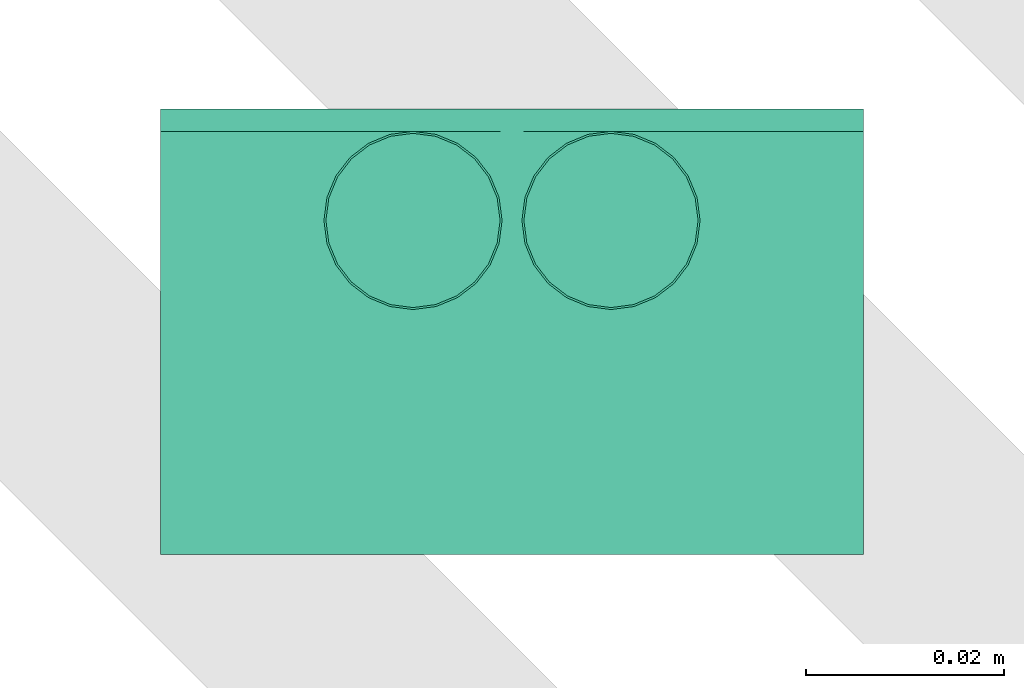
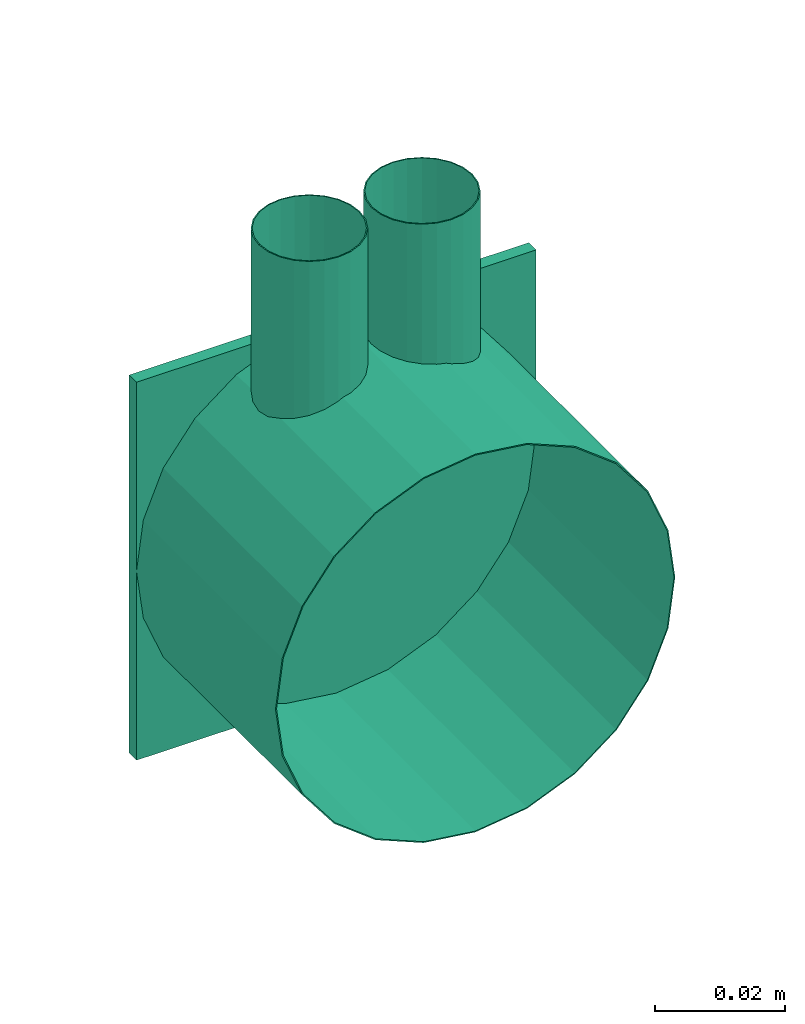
# One storey, part 51 of 51: 1 flow fitting.
"""IFC2X3 building model written with IfcOpenShell, lengths in millimetres."""

from ifc_helpers import new_model, entity, si_unit, converted_unit, derived_unit, direction, frame, origin_with_axes, place, context, subcontext, project, spatial, open_shell, surface_model, source, transform, mapped, type_object, element, save


model = new_model("IFC2X3")

# Units and contexts
model_context = context("Model", 3, precision=0.01, world=frame((0.0, 4.29681676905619e-09, 0.0)), true_north=direction((4.01073788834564e-13, 1.0)))
plan_context = context("Plan", 3, precision=0.01, world=frame((0.0, 4.29681676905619e-09, 0.0)), true_north=direction((4.01073788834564e-13, 1.0)))
body_context = subcontext(model_context, "Body", "Model", "MODEL_VIEW")
ifc_project = project(units=[converted_unit("PLANEANGLEUNIT", "DEGREE", entity("IfcPositiveLengthMeasure", 0.0174532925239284), si_unit("PLANEANGLEUNIT", "RADIAN"), dimensions=[0, 0, 0, 0, 0, 0, 0]), si_unit("AREAUNIT", "SQUARE_METRE"), si_unit("LENGTHUNIT", "METRE", prefix="MILLI"), si_unit("MASSUNIT", "GRAM", prefix="KILO"), si_unit("POWERUNIT", "WATT"), si_unit("PRESSUREUNIT", "PASCAL"), si_unit("FORCEUNIT", "NEWTON", prefix="KILO"), si_unit("ELECTRICVOLTAGEUNIT", "VOLT"), si_unit("ELECTRICCURRENTUNIT", "AMPERE"), si_unit("THERMODYNAMICTEMPERATUREUNIT", "DEGREE_CELSIUS"), si_unit("TIMEUNIT", "SECOND"), si_unit("VOLUMEUNIT", "CUBIC_METRE"), derived_unit("LINEARVELOCITYUNIT", [(si_unit("LENGTHUNIT", "METRE"), 1), (si_unit("TIMEUNIT", "SECOND"), -1)]), derived_unit("VOLUMETRICFLOWRATEUNIT", [(si_unit("VOLUMEUNIT", "CUBIC_METRE"), 1), (si_unit("TIMEUNIT", "SECOND"), -1)]), derived_unit("THERMALTRANSMITTANCEUNIT", [(si_unit("POWERUNIT", "WATT"), 1), (si_unit("THERMODYNAMICTEMPERATUREUNIT", "KELVIN"), -1), (si_unit("AREAUNIT", "SQUARE_METRE"), -1)]), derived_unit("SOUNDPRESSUREUNIT", [(si_unit("PRESSUREUNIT", "PASCAL"), 1)])], contexts=[model_context, plan_context])

# Site, building, storey
site_placement = place(None, frame((0.0, -4.29681676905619e-09, 0.0), z_axis=(0.0, 0.0, 1.0), x_axis=(1.0, 0.0, 0.0)))
site = spatial("IfcSite", under=ifc_project, at=site_placement, Name="ENGM", CompositionType="ELEMENT")
building_placement = place(site_placement, frame((0.0, 4.29681676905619e-09, 0.0), z_axis=(0.0, 0.0, 1.0), x_axis=(1.0, 0.0, 0.0)))
building = spatial("IfcBuilding", under=site, at=building_placement, Name="TI", CompositionType="ELEMENT")
storey_placement = place(building_placement, frame((0.0, 0.0, 210900.0), z_axis=(0.0, 0.0, 1.0), x_axis=(1.0, 0.0, 0.0)))
storey = spatial("IfcBuildingStorey", under=building, at=storey_placement, Name="Nivå F", CompositionType="ELEMENT", Elevation=210900.0)

# Flow fitting
junction_box_type = type_object("IfcJunctionBoxType", Name="Koblingsboks skjult vegg", PredefinedType="NOTDEFINED")
shared_shape = source(origin_with_axes(), body_context, "Body", "SurfaceModel", [
    surface_model("IfcShellBasedSurfaceModel", [(35.5, -45.0, 35.5), (35.5, -42.75, 35.5), (-35.5, -42.75, 35.5), (-35.5, -45.0, 35.5), (-35.5, -45.0, -35.5), (-35.5, -42.75, -35.5), (35.5, -42.75, -35.5), (35.5, -45.0, -35.5), (14.5, -41.54423, 61.0), (16.36396, -40.11396, 61.0), (14.4, -41.37103, 61.0), (12.27761, -42.25015, 61.0), (10.0, -42.55, 61.0), (12.32937, -42.44333, 61.0), (10.0, -42.75, 61.0), (16.22254, -39.97254, 61.0), (18.69333, -36.07937, 61.0), (18.8, -33.75, 61.0), (18.50015, -36.02761, 61.0), (19.0, -33.75, 61.0), (17.79423, -38.25, 61.0), (17.62102, -38.15, 61.0), (7.72239, -42.25015, 61.0), (7.67063, -42.44333, 61.0), (5.6, -41.37103, 61.0), (3.63604, -40.11396, 61.0), (5.5, -41.54423, 61.0), (3.77746, -39.97254, 61.0), (2.37898, -38.15, 61.0), (2.20577, -38.25, 61.0), (1.49985, -36.02761, 61.0), (1.30667, -36.07937, 61.0), (1.2, -33.75, 61.0), (1.0, -33.75, 61.0), (18.69333, -31.42063, 61.0), (18.50015, -31.47239, 61.0), (17.62102, -29.35, 61.0), (17.79423, -29.25, 61.0), (16.22254, -27.52746, 61.0), (16.36396, -27.38604, 61.0), (14.5, -25.95577, 61.0), (14.4, -26.12898, 61.0), (12.27761, -25.24985, 61.0), (12.32937, -25.05667, 61.0), (10.0, -24.95, 61.0), (10.0, -24.75, 61.0), (2.20577, -29.25, 61.0), (2.37898, -29.35, 61.0), (3.63604, -27.38604, 61.0), (3.77746, -27.52746, 61.0), (1.30667, -31.42063, 61.0), (1.49985, -31.47239, 61.0), (7.72239, -25.24985, 61.0), (7.67063, -25.05667, 61.0), (5.6, -26.12898, 61.0), (5.5, -25.95577, 61.0), (14.5, -25.95577, 28.4), (16.36396, -27.38604, 28.4), (14.4, -26.12898, 28.4), (12.27761, -25.24985, 28.4), (10.0, -24.95, 28.4), (12.32937, -25.05667, 28.4), (10.0, -24.75, 28.4), (16.22254, -27.52746, 28.4), (18.69333, -31.42063, 28.4), (18.8, -33.75, 28.4), (18.50015, -31.47239, 28.4), (19.0, -33.75, 28.4), (17.79423, -29.25, 28.4), (17.62102, -29.35, 28.4), (7.72239, -25.24985, 28.4), (7.67063, -25.05667, 28.4), (5.6, -26.12898, 28.4), (3.63604, -27.38604, 28.4), (5.5, -25.95577, 28.4), (3.77746, -27.52746, 28.4), (2.37898, -29.35, 28.4), (2.20577, -29.25, 28.4), (1.49985, -31.47239, 28.4), (1.30667, -31.42063, 28.4), (1.2, -33.75, 28.4), (1.0, -33.75, 28.4), (18.69333, -36.07937, 28.4), (18.50015, -36.02761, 28.4), (17.62102, -38.15, 28.4), (17.79423, -38.25, 28.4), (16.22254, -39.97254, 28.4), (16.36396, -40.11396, 28.4), (14.5, -41.54423, 28.4), (14.4, -41.37103, 28.4), (12.27761, -42.25015, 28.4), (12.32937, -42.44333, 28.4), (10.0, -42.55, 28.4), (10.0, -42.75, 28.4), (2.20577, -38.25, 28.4), (2.37898, -38.15, 28.4), (3.63604, -40.11396, 28.4), (3.77746, -39.97254, 28.4), (1.30667, -36.07937, 28.4), (1.49985, -36.02761, 28.4), (7.72239, -42.25015, 28.4), (7.67063, -42.44333, 28.4), (5.6, -41.37103, 28.4), (5.5, -41.54423, 28.4), (-5.5, -41.54423, 61.0), (-3.63604, -40.11396, 61.0), (-5.6, -41.37103, 61.0), (-7.72239, -42.25015, 61.0), (-10.0, -42.55, 61.0), (-7.67063, -42.44333, 61.0), (-10.0, -42.75, 61.0), (-3.77746, -39.97254, 61.0), (-1.30667, -36.07937, 61.0), (-1.2, -33.75, 61.0), (-1.49985, -36.02761, 61.0), (-1.0, -33.75, 61.0), (-2.20577, -38.25, 61.0), (-2.37898, -38.15, 61.0), (-12.27761, -42.25015, 61.0), (-12.32937, -42.44333, 61.0), (-14.4, -41.37103, 61.0), (-16.36396, -40.11396, 61.0), (-14.5, -41.54423, 61.0), (-16.22254, -39.97254, 61.0), (-17.62102, -38.15, 61.0), (-17.79423, -38.25, 61.0), (-18.50015, -36.02761, 61.0), (-18.69333, -36.07937, 61.0), (-18.8, -33.75, 61.0), (-19.0, -33.75, 61.0), (-1.30667, -31.42063, 61.0), (-1.49985, -31.47239, 61.0), (-2.37898, -29.35, 61.0), (-2.20577, -29.25, 61.0), (-3.77746, -27.52746, 61.0), (-3.63604, -27.38604, 61.0), (-5.5, -25.95577, 61.0), (-5.6, -26.12898, 61.0), (-7.72239, -25.24985, 61.0), (-7.67063, -25.05667, 61.0), (-10.0, -24.95, 61.0), (-10.0, -24.75, 61.0), (-17.79423, -29.25, 61.0), (-17.62102, -29.35, 61.0), (-16.36396, -27.38604, 61.0), (-16.22254, -27.52746, 61.0), (-18.69333, -31.42063, 61.0), (-18.50015, -31.47239, 61.0), (-12.27761, -25.24985, 61.0), (-12.32937, -25.05667, 61.0), (-14.4, -26.12898, 61.0), (-14.5, -25.95577, 61.0), (-5.5, -25.95577, 28.4), (-3.63604, -27.38604, 28.4), (-5.6, -26.12898, 28.4), (-7.72239, -25.24985, 28.4), (-10.0, -24.95, 28.4), (-7.67063, -25.05667, 28.4), (-10.0, -24.75, 28.4), (-3.77746, -27.52746, 28.4), (-1.30667, -31.42063, 28.4), (-1.2, -33.75, 28.4), (-1.49985, -31.47239, 28.4), (-1.0, -33.75, 28.4), (-2.20577, -29.25, 28.4), (-2.37898, -29.35, 28.4), (-12.27761, -25.24985, 28.4), (-12.32937, -25.05667, 28.4), (-14.4, -26.12898, 28.4), (-16.36396, -27.38604, 28.4), (-14.5, -25.95577, 28.4), (-16.22254, -27.52746, 28.4), (-17.62102, -29.35, 28.4), (-17.79423, -29.25, 28.4), (-18.50015, -31.47239, 28.4), (-18.69333, -31.42063, 28.4), (-18.8, -33.75, 28.4), (-19.0, -33.75, 28.4), (-1.30667, -36.07937, 28.4), (-1.49985, -36.02761, 28.4), (-2.37898, -38.15, 28.4), (-2.20577, -38.25, 28.4), (-3.77746, -39.97254, 28.4), (-3.63604, -40.11396, 28.4), (-5.5, -41.54423, 28.4), (-5.6, -41.37103, 28.4), (-7.72239, -42.25015, 28.4), (-7.67063, -42.44333, 28.4), (-10.0, -42.55, 28.4), (-10.0, -42.75, 28.4), (-17.79423, -38.25, 28.4), (-17.62102, -38.15, 28.4), (-16.36396, -40.11396, 28.4), (-16.22254, -39.97254, 28.4), (-18.69333, -36.07937, 28.4), (-18.50015, -36.02761, 28.4), (-12.27761, -42.25015, 28.4), (-12.32937, -42.44333, 28.4), (-14.4, -41.37103, 28.4), (-14.5, -41.54423, 28.4), (-30.7439, -42.75, -17.75), (-25.10229, -42.75, -25.10229), (-30.5707, -42.75, -17.65), (-34.09718, -42.75, -9.13631), (-35.3, -42.75, 0.0), (-34.29037, -42.75, -9.18808), (-35.5, -42.75, 0.0), (-24.96087, -42.75, -24.96087), (-9.18808, -42.75, -34.29037), (0.0, -42.75, -35.3), (-9.13631, -42.75, -34.09718), (0.0, -42.75, -35.5), (-17.75, -42.75, -30.7439), (-17.65, -42.75, -30.5707), (-34.09718, -42.75, 9.13631), (-34.29037, -42.75, 9.18808), (-30.5707, -42.75, 17.65), (-25.10229, -42.75, 25.10229), (-30.7439, -42.75, 17.75), (-24.96087, -42.75, 24.96087), (-17.65, -42.75, 30.5707), (-17.75, -42.75, 30.7439), (-9.13631, -42.75, 34.09718), (-9.18808, -42.75, 34.29037), (0.0, -42.75, 35.3), (0.0, -42.75, 35.5), (9.18808, -42.75, -34.29037), (9.13631, -42.75, -34.09718), (17.65, -42.75, -30.5707), (17.75, -42.75, -30.7439), (24.96087, -42.75, -24.96087), (25.10229, -42.75, -25.10229), (30.7439, -42.75, -17.75), (30.5707, -42.75, -17.65), (34.09718, -42.75, -9.13631), (34.29037, -42.75, -9.18808), (35.3, -42.75, 0.0), (35.5, -42.75, 0.0), (17.75, -42.75, 30.7439), (17.65, -42.75, 30.5707), (25.10229, -42.75, 25.10229), (24.96087, -42.75, 24.96087), (9.18808, -42.75, 34.29037), (9.13631, -42.75, 34.09718), (34.09718, -42.75, 9.13631), (34.29037, -42.75, 9.18808), (30.5707, -42.75, 17.65), (30.7439, -42.75, 17.75), (30.7439, 0.0, -17.75), (25.10229, 0.0, -25.10229), (30.5707, 0.0, -17.65), (34.09718, 0.0, -9.13631), (35.3, 0.0, 0.0), (34.29037, 0.0, -9.18808), (35.5, 0.0, 0.0), (24.96087, 0.0, -24.96087), (9.18808, 0.0, -34.29037), (0.0, 0.0, -35.3), (9.13631, 0.0, -34.09718), (0.0, 0.0, -35.5), (17.75, 0.0, -30.7439), (17.65, 0.0, -30.5707), (34.09718, 0.0, 9.13631), (34.29037, 0.0, 9.18808), (30.5707, 0.0, 17.65), (25.10229, 0.0, 25.10229), (30.7439, 0.0, 17.75), (24.96087, 0.0, 24.96087), (17.65, 0.0, 30.5707), (17.75, 0.0, 30.7439), (9.13631, 0.0, 34.09718), (9.18808, 0.0, 34.29037), (0.0, 0.0, 35.3), (0.0, 0.0, 35.5), (-9.18808, 0.0, -34.29037), (-9.13631, 0.0, -34.09718), (-17.65, 0.0, -30.5707), (-17.75, 0.0, -30.7439), (-24.96087, 0.0, -24.96087), (-25.10229, 0.0, -25.10229), (-30.7439, 0.0, -17.75), (-30.5707, 0.0, -17.65), (-34.09718, 0.0, -9.13631), (-34.29037, 0.0, -9.18808), (-35.3, 0.0, 0.0), (-35.5, 0.0, 0.0), (-17.75, 0.0, 30.7439), (-17.65, 0.0, 30.5707), (-25.10229, 0.0, 25.10229), (-24.96087, 0.0, 24.96087), (-9.18808, 0.0, 34.29037), (-9.13631, 0.0, 34.09718), (-34.09718, 0.0, 9.13631), (-34.29037, 0.0, 9.18808), (-30.5707, 0.0, 17.65), (-30.7439, 0.0, 17.75)], [open_shell([[[0, 1, 2]], [[2, 3, 0]], [[4, 5, 6]], [[6, 7, 4]], [[2, 1, 6]], [[6, 5, 2]], [[3, 2, 5]], [[5, 4, 3]], [[0, 3, 4]], [[4, 7, 0]], [[1, 0, 7]], [[7, 6, 1]], [[8, 9, 10]], [[8, 10, 11]], [[12, 13, 11]], [[13, 12, 14]], [[11, 13, 8]], [[10, 9, 15]], [[16, 17, 18]], [[17, 16, 19]], [[16, 18, 20]], [[15, 20, 21]], [[20, 15, 9]], [[21, 20, 18]], [[14, 22, 23]], [[23, 22, 24]], [[25, 26, 27]], [[24, 26, 23]], [[24, 27, 26]], [[14, 12, 22]], [[28, 29, 25]], [[29, 28, 30]], [[28, 25, 27]], [[31, 30, 32]], [[30, 31, 29]], [[31, 32, 33]], [[19, 34, 35]], [[35, 34, 36]], [[36, 37, 38]], [[37, 36, 34]], [[38, 37, 39]], [[39, 40, 41]], [[41, 40, 42]], [[42, 43, 44]], [[43, 42, 40]], [[44, 43, 45]], [[41, 38, 39]], [[46, 47, 48]], [[48, 47, 49]], [[47, 46, 50]], [[33, 51, 50]], [[50, 51, 47]], [[33, 32, 51]], [[52, 45, 53]], [[52, 53, 54]], [[49, 55, 48]], [[49, 54, 55]], [[55, 54, 53]], [[44, 45, 52]], [[35, 17, 19]], [[56, 57, 58]], [[56, 58, 59]], [[60, 61, 59]], [[61, 60, 62]], [[59, 61, 56]], [[58, 57, 63]], [[64, 65, 66]], [[65, 64, 67]], [[64, 66, 68]], [[63, 68, 69]], [[68, 63, 57]], [[69, 68, 66]], [[62, 70, 71]], [[71, 70, 72]], [[73, 74, 75]], [[72, 74, 71]], [[72, 75, 74]], [[62, 60, 70]], [[76, 77, 73]], [[77, 76, 78]], [[76, 73, 75]], [[79, 78, 80]], [[78, 79, 77]], [[79, 80, 81]], [[67, 82, 83]], [[83, 82, 84]], [[84, 85, 86]], [[85, 84, 82]], [[86, 85, 87]], [[87, 88, 89]], [[89, 88, 90]], [[90, 91, 92]], [[91, 90, 88]], [[92, 91, 93]], [[89, 86, 87]], [[94, 95, 96]], [[96, 95, 97]], [[95, 94, 98]], [[81, 99, 98]], [[98, 99, 95]], [[81, 80, 99]], [[100, 93, 101]], [[100, 101, 102]], [[97, 103, 96]], [[97, 102, 103]], [[103, 102, 101]], [[92, 93, 100]], [[83, 65, 67]], [[98, 31, 81]], [[94, 29, 98]], [[26, 96, 103]], [[94, 96, 25]], [[23, 103, 101]], [[98, 29, 31]], [[31, 33, 81]], [[23, 26, 103]], [[25, 96, 26]], [[25, 29, 94]], [[14, 23, 101]], [[101, 93, 14]], [[91, 13, 93]], [[88, 8, 91]], [[20, 87, 85]], [[88, 87, 9]], [[16, 85, 82]], [[88, 9, 8]], [[8, 13, 91]], [[19, 16, 82]], [[20, 85, 16]], [[20, 9, 87]], [[67, 19, 82]], [[93, 13, 14]], [[64, 34, 67]], [[68, 37, 64]], [[40, 57, 56]], [[68, 57, 39]], [[43, 56, 61]], [[64, 37, 34]], [[34, 19, 67]], [[43, 40, 56]], [[39, 57, 40]], [[39, 37, 68]], [[45, 43, 61]], [[61, 62, 45]], [[71, 53, 62]], [[74, 55, 71]], [[46, 73, 77]], [[74, 73, 48]], [[50, 77, 79]], [[74, 48, 55]], [[55, 53, 71]], [[33, 50, 79]], [[46, 77, 50]], [[46, 48, 73]], [[81, 33, 79]], [[62, 53, 45]], [[80, 30, 99]], [[99, 28, 95]], [[102, 97, 24]], [[27, 97, 95]], [[100, 102, 22]], [[30, 28, 99]], [[80, 32, 30]], [[102, 24, 22]], [[24, 97, 27]], [[95, 28, 27]], [[100, 22, 12]], [[12, 92, 100]], [[92, 11, 90]], [[90, 10, 89]], [[84, 86, 21]], [[15, 86, 89]], [[83, 84, 18]], [[10, 15, 89]], [[90, 11, 10]], [[83, 18, 17]], [[18, 84, 21]], [[86, 15, 21]], [[83, 17, 65]], [[12, 11, 92]], [[65, 35, 66]], [[66, 36, 69]], [[58, 63, 41]], [[38, 63, 69]], [[59, 58, 42]], [[35, 36, 66]], [[65, 17, 35]], [[58, 41, 42]], [[41, 63, 38]], [[69, 36, 38]], [[59, 42, 44]], [[44, 60, 59]], [[60, 52, 70]], [[70, 54, 72]], [[76, 75, 47]], [[49, 75, 72]], [[78, 76, 51]], [[54, 49, 72]], [[70, 52, 54]], [[78, 51, 32]], [[51, 76, 47]], [[75, 49, 47]], [[78, 32, 80]], [[44, 52, 60]], [[104, 105, 106]], [[104, 106, 107]], [[108, 109, 107]], [[109, 108, 110]], [[107, 109, 104]], [[106, 105, 111]], [[112, 113, 114]], [[113, 112, 115]], [[112, 114, 116]], [[111, 116, 117]], [[116, 111, 105]], [[117, 116, 114]], [[110, 118, 119]], [[119, 118, 120]], [[121, 122, 123]], [[120, 122, 119]], [[120, 123, 122]], [[110, 108, 118]], [[124, 125, 121]], [[125, 124, 126]], [[124, 121, 123]], [[127, 126, 128]], [[126, 127, 125]], [[127, 128, 129]], [[115, 130, 131]], [[131, 130, 132]], [[132, 133, 134]], [[133, 132, 130]], [[134, 133, 135]], [[135, 136, 137]], [[137, 136, 138]], [[138, 139, 140]], [[139, 138, 136]], [[140, 139, 141]], [[137, 134, 135]], [[142, 143, 144]], [[144, 143, 145]], [[143, 142, 146]], [[129, 147, 146]], [[146, 147, 143]], [[129, 128, 147]], [[148, 141, 149]], [[148, 149, 150]], [[145, 151, 144]], [[145, 150, 151]], [[151, 150, 149]], [[140, 141, 148]], [[131, 113, 115]], [[152, 153, 154]], [[152, 154, 155]], [[156, 157, 155]], [[157, 156, 158]], [[155, 157, 152]], [[154, 153, 159]], [[160, 161, 162]], [[161, 160, 163]], [[160, 162, 164]], [[159, 164, 165]], [[164, 159, 153]], [[165, 164, 162]], [[158, 166, 167]], [[167, 166, 168]], [[169, 170, 171]], [[168, 170, 167]], [[168, 171, 170]], [[158, 156, 166]], [[172, 173, 169]], [[173, 172, 174]], [[172, 169, 171]], [[175, 174, 176]], [[174, 175, 173]], [[175, 176, 177]], [[163, 178, 179]], [[179, 178, 180]], [[180, 181, 182]], [[181, 180, 178]], [[182, 181, 183]], [[183, 184, 185]], [[185, 184, 186]], [[186, 187, 188]], [[187, 186, 184]], [[188, 187, 189]], [[185, 182, 183]], [[190, 191, 192]], [[192, 191, 193]], [[191, 190, 194]], [[177, 195, 194]], [[194, 195, 191]], [[177, 176, 195]], [[196, 189, 197]], [[196, 197, 198]], [[193, 199, 192]], [[193, 198, 199]], [[199, 198, 197]], [[188, 189, 196]], [[179, 161, 163]], [[194, 127, 177]], [[190, 125, 194]], [[122, 192, 199]], [[190, 192, 121]], [[119, 199, 197]], [[194, 125, 127]], [[127, 129, 177]], [[119, 122, 199]], [[121, 192, 122]], [[121, 125, 190]], [[110, 119, 197]], [[197, 189, 110]], [[187, 109, 189]], [[184, 104, 187]], [[116, 183, 181]], [[184, 183, 105]], [[112, 181, 178]], [[184, 105, 104]], [[104, 109, 187]], [[115, 112, 178]], [[116, 181, 112]], [[116, 105, 183]], [[163, 115, 178]], [[189, 109, 110]], [[160, 130, 163]], [[164, 133, 160]], [[136, 153, 152]], [[164, 153, 135]], [[139, 152, 157]], [[160, 133, 130]], [[130, 115, 163]], [[139, 136, 152]], [[135, 153, 136]], [[135, 133, 164]], [[141, 139, 157]], [[157, 158, 141]], [[167, 149, 158]], [[170, 151, 167]], [[142, 169, 173]], [[170, 169, 144]], [[146, 173, 175]], [[170, 144, 151]], [[151, 149, 167]], [[129, 146, 175]], [[142, 173, 146]], [[142, 144, 169]], [[177, 129, 175]], [[158, 149, 141]], [[176, 126, 195]], [[195, 124, 191]], [[198, 193, 120]], [[123, 193, 191]], [[196, 198, 118]], [[126, 124, 195]], [[176, 128, 126]], [[198, 120, 118]], [[120, 193, 123]], [[191, 124, 123]], [[196, 118, 108]], [[108, 188, 196]], [[188, 107, 186]], [[186, 106, 185]], [[180, 182, 117]], [[111, 182, 185]], [[179, 180, 114]], [[106, 111, 185]], [[186, 107, 106]], [[179, 114, 113]], [[114, 180, 117]], [[182, 111, 117]], [[179, 113, 161]], [[108, 107, 188]], [[161, 131, 162]], [[162, 132, 165]], [[154, 159, 137]], [[134, 159, 165]], [[155, 154, 138]], [[131, 132, 162]], [[161, 113, 131]], [[154, 137, 138]], [[137, 159, 134]], [[165, 132, 134]], [[155, 138, 140]], [[140, 156, 155]], [[156, 148, 166]], [[166, 150, 168]], [[172, 171, 143]], [[145, 171, 168]], [[174, 172, 147]], [[150, 145, 168]], [[166, 148, 150]], [[174, 147, 128]], [[147, 172, 143]], [[171, 145, 143]], [[174, 128, 176]], [[140, 148, 156]], [[200, 201, 202]], [[200, 202, 203]], [[204, 205, 203]], [[205, 204, 206]], [[203, 205, 200]], [[202, 201, 207]], [[208, 209, 210]], [[209, 208, 211]], [[208, 210, 212]], [[207, 212, 213]], [[212, 207, 201]], [[213, 212, 210]], [[206, 214, 215]], [[215, 214, 216]], [[217, 218, 219]], [[216, 218, 215]], [[216, 219, 218]], [[206, 204, 214]], [[220, 221, 217]], [[221, 220, 222]], [[220, 217, 219]], [[223, 222, 224]], [[222, 223, 221]], [[223, 224, 225]], [[211, 226, 227]], [[227, 226, 228]], [[228, 229, 230]], [[229, 228, 226]], [[230, 229, 231]], [[231, 232, 233]], [[233, 232, 234]], [[234, 235, 236]], [[235, 234, 232]], [[236, 235, 237]], [[233, 230, 231]], [[238, 239, 240]], [[240, 239, 241]], [[239, 238, 242]], [[225, 243, 242]], [[242, 243, 239]], [[225, 224, 243]], [[244, 237, 245]], [[244, 245, 246]], [[241, 247, 240]], [[241, 246, 247]], [[247, 246, 245]], [[236, 237, 244]], [[227, 209, 211]], [[248, 249, 250]], [[248, 250, 251]], [[252, 253, 251]], [[253, 252, 254]], [[251, 253, 248]], [[250, 249, 255]], [[256, 257, 258]], [[257, 256, 259]], [[256, 258, 260]], [[255, 260, 261]], [[260, 255, 249]], [[261, 260, 258]], [[254, 262, 263]], [[263, 262, 264]], [[265, 266, 267]], [[264, 266, 263]], [[264, 267, 266]], [[254, 252, 262]], [[268, 269, 265]], [[269, 268, 270]], [[268, 265, 267]], [[271, 270, 272]], [[270, 271, 269]], [[271, 272, 273]], [[259, 274, 275]], [[275, 274, 276]], [[276, 277, 278]], [[277, 276, 274]], [[278, 277, 279]], [[279, 280, 281]], [[281, 280, 282]], [[282, 283, 284]], [[283, 282, 280]], [[284, 283, 285]], [[281, 278, 279]], [[286, 287, 288]], [[288, 287, 289]], [[287, 286, 290]], [[273, 291, 290]], [[290, 291, 287]], [[273, 272, 291]], [[292, 285, 293]], [[292, 293, 294]], [[289, 295, 288]], [[289, 294, 295]], [[295, 294, 293]], [[284, 285, 292]], [[275, 257, 259]], [[223, 273, 290]], [[286, 221, 290]], [[218, 295, 293]], [[215, 293, 285]], [[290, 221, 223]], [[223, 225, 273]], [[217, 288, 218]], [[217, 221, 286]], [[218, 288, 295]], [[293, 215, 218]], [[217, 286, 288]], [[285, 206, 215]], [[205, 283, 280]], [[279, 200, 280]], [[212, 277, 274]], [[279, 277, 201]], [[208, 274, 259]], [[283, 205, 206]], [[280, 200, 205]], [[279, 201, 200]], [[277, 212, 201]], [[208, 212, 274]], [[259, 211, 208]], [[283, 206, 285]], [[256, 226, 259]], [[260, 229, 256]], [[260, 249, 231]], [[249, 248, 232]], [[256, 229, 226]], [[226, 211, 259]], [[237, 235, 253]], [[235, 232, 248]], [[231, 249, 232]], [[231, 229, 260]], [[253, 235, 248]], [[253, 254, 237]], [[245, 263, 266]], [[265, 247, 266]], [[238, 269, 271]], [[265, 269, 240]], [[242, 271, 273]], [[263, 245, 237]], [[266, 247, 245]], [[265, 240, 247]], [[269, 238, 240]], [[242, 238, 271]], [[273, 225, 242]], [[263, 237, 254]], [[291, 272, 222]], [[287, 291, 220]], [[292, 294, 216]], [[284, 292, 214]], [[222, 220, 291]], [[272, 224, 222]], [[216, 289, 219]], [[287, 220, 219]], [[294, 289, 216]], [[216, 214, 292]], [[289, 287, 219]], [[214, 204, 284]], [[281, 282, 203]], [[281, 202, 278]], [[275, 276, 213]], [[207, 276, 278]], [[257, 275, 210]], [[204, 203, 282]], [[203, 202, 281]], [[202, 207, 278]], [[207, 213, 276]], [[275, 213, 210]], [[210, 209, 257]], [[284, 204, 282]], [[257, 227, 258]], [[258, 228, 261]], [[230, 255, 261]], [[233, 250, 255]], [[227, 228, 258]], [[257, 209, 227]], [[251, 234, 236]], [[233, 234, 251]], [[233, 255, 230]], [[261, 228, 230]], [[233, 251, 250]], [[236, 252, 251]], [[264, 262, 244]], [[264, 246, 267]], [[270, 268, 239]], [[241, 268, 267]], [[272, 270, 243]], [[236, 244, 262]], [[244, 246, 264]], [[246, 241, 267]], [[241, 239, 268]], [[270, 239, 243]], [[243, 224, 272]], [[252, 236, 262]]])]),
])
flow_fitting_placement = place(storey_placement, frame((606338.23454, 699275.5, 2400.0), z_axis=(0.0, 0.0, 1.0), x_axis=(-1.0, 0.0, 0.0)))
element("IfcFlowFitting", 1, at=flow_fitting_placement, inside=storey, type_object=junction_box_type, Name="Koblingsboks skjult vegg", context=body_context, shape_type="MappedRepresentation", body=[
    mapped(shared_shape, transform((0.0, 0.0, 0.0), scale=1.0)),
])

save(model, "model.ifc")
